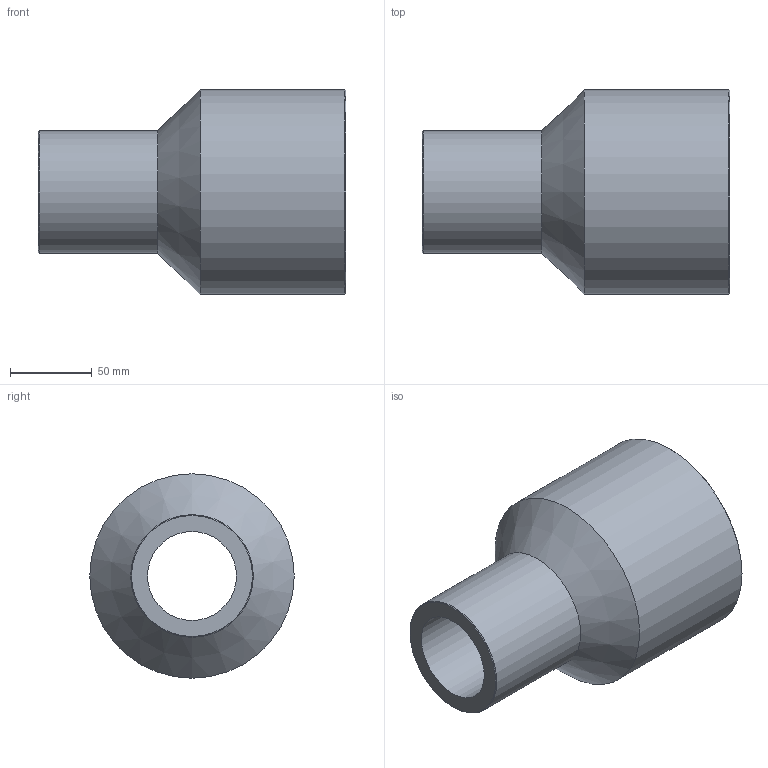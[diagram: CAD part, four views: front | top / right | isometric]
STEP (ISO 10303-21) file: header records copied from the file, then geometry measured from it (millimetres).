
FILE_DESCRIPTION(/* description */ ('Unknown'),/* implementation_level */ '2;1');
FILE_NAME(/* name */ 'RP125075H',/* time_stamp */ '2021-09-16T12:19:37+02:00',/* author */ ('Unknown'),/* organization */ ('Unknown'),/* preprocessor_version */ 'ST-DEVELOPER v16.7',/* originating_system */ 'Solid Edge',/* authorisation */ 'Unknown');
FILE_SCHEMA (('AUTOMOTIVE_DESIGN {1 0 10303 214 3 1 1}'));
Length unit declared in the file: millimetre
Products named in the file (1): RP125075H
Bounding box: 188 x 125 x 125 mm (x, y, z)
Volume: 786416.4 mm3; surface area: 115661.3 mm2
Topology: 1 solids, 1 shells, 10 faces, 19 edges, 11 vertices
Faces by surface type: cylinder 4, cone 4, plane 2
Full cylindrical faces by diameter (mm): 54.4 x1, 75 x1, 90.8 x1, 125 x1
Entity records: 238 total; most frequent: DIRECTION 42, CARTESIAN_POINT 31, AXIS2_PLACEMENT_3D 21, ORIENTED_EDGE 20, EDGE_LOOP 20, FACE_BOUND 20, EDGE_CURVE 10, VERTEX_POINT 10
